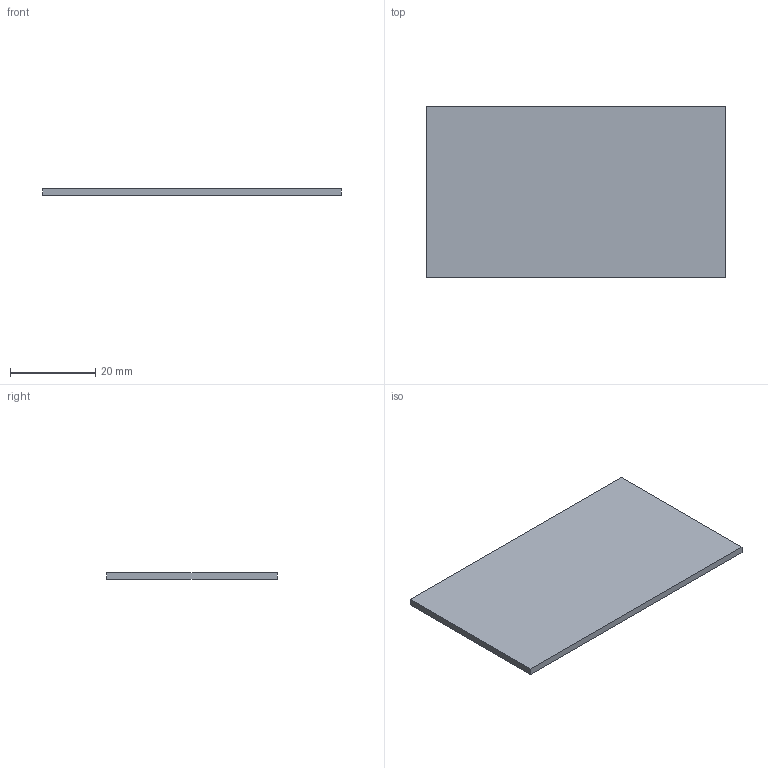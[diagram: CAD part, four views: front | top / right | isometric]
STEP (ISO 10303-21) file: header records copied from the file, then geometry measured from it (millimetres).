
FILE_DESCRIPTION(('Reference STEP solid generated for enclosure CAD implementation'),'2;1');
FILE_NAME('airgap8mb_board_envelope.step','2026-07-29T17:00:00Z',('Daxini'),('Daxini'),'airgap8mb-cadgen','airgap8mb-cadgen','');
FILE_SCHEMA(('AUTOMOTIVE_DESIGN_CC2'));
Length unit declared in the file: millimetre
Products named in the file (1): airgap8mb_board_envelope
Bounding box: 70 x 40 x 1.6 mm (x, y, z)
Surface area: 5952 mm2 (no closed solid volume)
Topology: 0 solids, 6 shells, 6 faces, 24 edges, 8 vertices
Faces by surface type: plane 6
Entity records: 221 total; most frequent: CARTESIAN_POINT 38, DIRECTION 36, VECTOR 24, LINE 24, EDGE_CURVE 24, ORIENTED_EDGE 24, VERTEX_POINT 8, EDGE_LOOP 6
